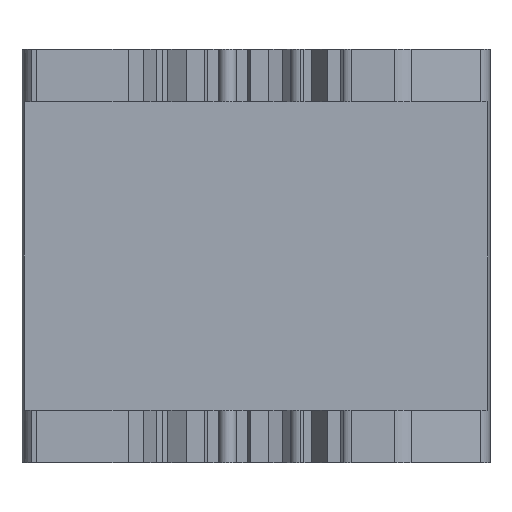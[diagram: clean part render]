
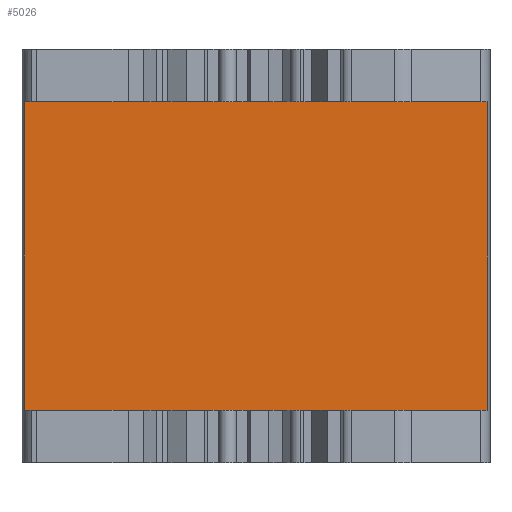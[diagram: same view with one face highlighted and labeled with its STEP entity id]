
A CAD part, front view. The second image highlights one B-rep face of the part: STEP entity #5026.
In plain terms, the highlighted planar face has unit normal (0, -1, 0).
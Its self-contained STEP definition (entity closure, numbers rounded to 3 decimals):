
#143 = VECTOR ( 'NONE', #2943, 1000. ) ;
#287 = CARTESIAN_POINT ( 'NONE',  ( 44.306, -0.45, 69. ) ) ;
#379 = CARTESIAN_POINT ( 'NONE',  ( -44.739, -0.45, 69. ) ) ;
#486 = CARTESIAN_POINT ( 'NONE',  ( 44.306, -0.45, 10. ) ) ;
#522 = ORIENTED_EDGE ( 'NONE', *, *, #5987, .F. ) ;
#837 = ORIENTED_EDGE ( 'NONE', *, *, #3523, .T. ) ;
#838 = CARTESIAN_POINT ( 'NONE',  ( -44.739, -0.45, 10. ) ) ;
#1295 = LINE ( 'NONE', #838, #3253 ) ;
#1296 = ORIENTED_EDGE ( 'NONE', *, *, #1299, .F. ) ;
#1299 = EDGE_CURVE ( 'NONE', #1514, #2757, #3671, .T. ) ;
#1514 = VERTEX_POINT ( 'NONE', #287 ) ;
#2245 = DIRECTION ( 'NONE',  ( 1., 0., 0. ) ) ;
#2328 = DIRECTION ( 'NONE',  ( 0., 0., -1. ) ) ;
#2369 = CARTESIAN_POINT ( 'NONE',  ( -44.739, -0.45, 69. ) ) ;
#2508 = LINE ( 'NONE', #4818, #143 ) ;
#2615 = FACE_OUTER_BOUND ( 'NONE', #2888, .T. ) ;
#2757 = VERTEX_POINT ( 'NONE', #486 ) ;
#2888 = EDGE_LOOP ( 'NONE', ( #522, #6068, #837, #1296 ) ) ;
#2943 = DIRECTION ( 'NONE',  ( 0., 0., -1. ) ) ;
#3162 = CARTESIAN_POINT ( 'NONE',  ( -44.306, -0.45, 10. ) ) ;
#3253 = VECTOR ( 'NONE', #2245, 1000. ) ;
#3255 = VECTOR ( 'NONE', #3784, 1000. ) ;
#3523 = EDGE_CURVE ( 'NONE', #5513, #2757, #1295, .T. ) ;
#3568 = DIRECTION ( 'NONE',  ( 0., 1., 0. ) ) ;
#3671 = LINE ( 'NONE', #5555, #5195 ) ;
#3784 = DIRECTION ( 'NONE',  ( 1., 0., 0. ) ) ;
#4300 = CARTESIAN_POINT ( 'NONE',  ( -44.306, -0.45, 69. ) ) ;
#4498 = EDGE_CURVE ( 'NONE', #6028, #5513, #2508, .T. ) ;
#4818 = CARTESIAN_POINT ( 'NONE',  ( -44.306, -0.45, 79. ) ) ;
#5026 = ADVANCED_FACE ( 'NONE', ( #2615 ), #5939, .F. ) ;
#5038 = AXIS2_PLACEMENT_3D ( 'NONE', #379, #3568, #5446 ) ;
#5195 = VECTOR ( 'NONE', #2328, 1000. ) ;
#5286 = LINE ( 'NONE', #2369, #3255 ) ;
#5446 = DIRECTION ( 'NONE',  ( 0., 0., 1. ) ) ;
#5513 = VERTEX_POINT ( 'NONE', #3162 ) ;
#5555 = CARTESIAN_POINT ( 'NONE',  ( 44.306, -0.45, 79. ) ) ;
#5939 = PLANE ( 'NONE',  #5038 ) ;
#5987 = EDGE_CURVE ( 'NONE', #6028, #1514, #5286, .T. ) ;
#6028 = VERTEX_POINT ( 'NONE', #4300 ) ;
#6068 = ORIENTED_EDGE ( 'NONE', *, *, #4498, .T. ) ;
